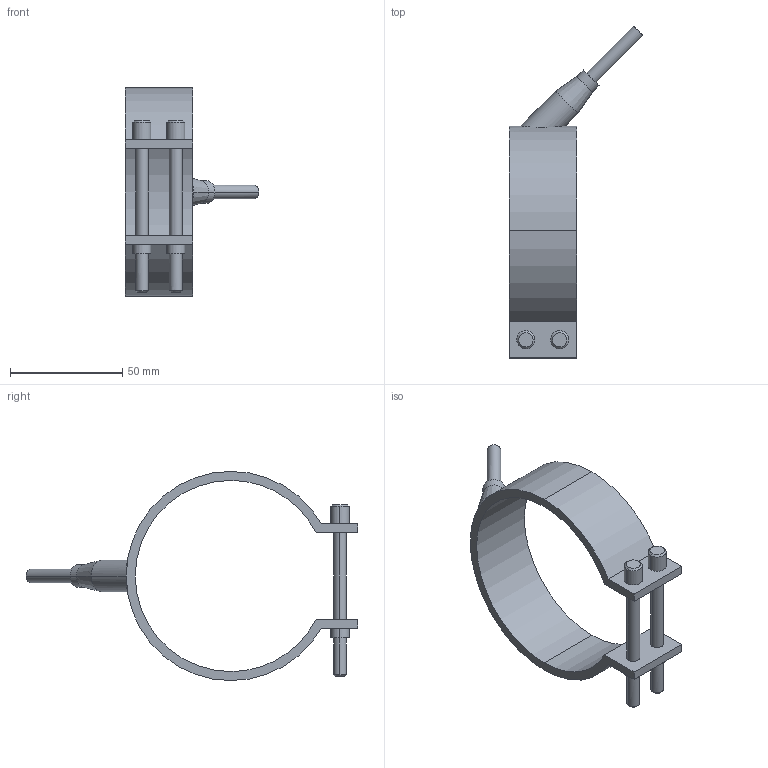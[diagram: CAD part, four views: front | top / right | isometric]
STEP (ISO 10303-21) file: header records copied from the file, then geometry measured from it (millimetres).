
FILE_DESCRIPTION(('CATIA V5 STEP Exchange'),'2;1');
FILE_NAME('C:\Users\Utente\Desktop\IO LAVORO\3D X SITO CF\X SITO\PLASTICA\RF1\29085030.stp','2021-03-29T18:06:06+00:00',('none'),('none'),'CATIA Version 5 Release 20 GA (IN-10)','CATIA V5 STEP AP203','none');
FILE_SCHEMA(('CONFIG_CONTROL_DESIGN'));
Length unit declared in the file: millimetre
Products named in the file (1): 29085030
Bounding box: 59.55 x 147.55 x 93 mm (x, y, z)
Volume: 41294.1 mm3; surface area: 22749 mm2
Topology: 1 solids, 1 shells, 54 faces, 123 edges, 79 vertices
Faces by surface type: cylinder 28, plane 16, cone 10
Entity records: 1746 total; most frequent: CARTESIAN_POINT 518, ORIENTED_EDGE 246, DIRECTION 211, EDGE_CURVE 123, AXIS2_PLACEMENT_3D 104, VERTEX_POINT 79, EDGE_LOOP 66, VECTOR 56
